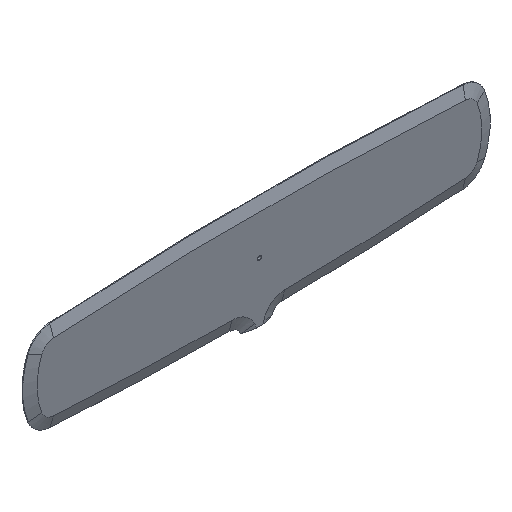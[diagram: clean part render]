
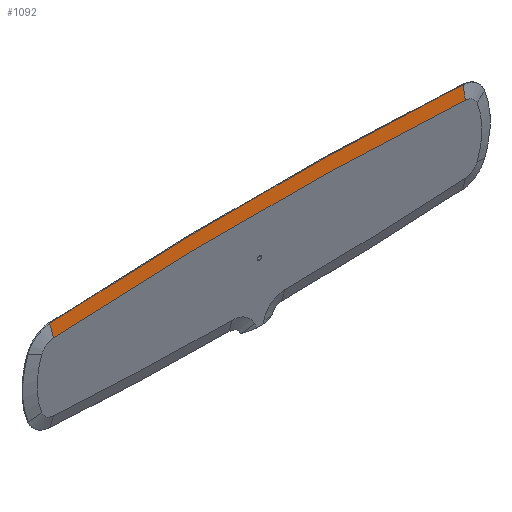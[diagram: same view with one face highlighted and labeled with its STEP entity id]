
A CAD part, isometric view. The second image highlights one B-rep face of the part: STEP entity #1092.
In plain terms, the highlighted free-form (B-spline) face has degree [1, 3] with [2, 14] control points.
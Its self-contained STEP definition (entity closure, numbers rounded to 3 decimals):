
#56 = CARTESIAN_POINT ( 'NONE',  ( -89.546, 0., 104.789 ) ) ;
#61 = CARTESIAN_POINT ( 'NONE',  ( 5.667, 0., 105.144 ) ) ;
#80 = CARTESIAN_POINT ( 'NONE',  ( 447.795, 0., 93.762 ) ) ;
#85 = CARTESIAN_POINT ( 'NONE',  ( -359.555, 8., 127.862 ) ) ;
#104 = CARTESIAN_POINT ( 'NONE',  ( 224.811, 8., 132.144 ) ) ;
#170 = CARTESIAN_POINT ( 'NONE',  ( 447.794, 0., 93.762 ) ) ;
#173 = CARTESIAN_POINT ( 'NONE',  ( 359.42, 8., 129.301 ) ) ;
#177 = EDGE_CURVE ( 'NONE', #418, #715, #540, .T. ) ;
#184 = CARTESIAN_POINT ( 'NONE',  ( -537.231, 0., 88.073 ) ) ;
#214 = CARTESIAN_POINT ( 'NONE',  ( 22.469, 0., 105.116 ) ) ;
#235 = ORIENTED_EDGE ( 'NONE', *, *, #503, .F. ) ;
#242 = CARTESIAN_POINT ( 'NONE',  ( 539.127, 8., 117.869 ) ) ;
#247 = CARTESIAN_POINT ( 'NONE',  ( 537.231, 0., 88.073 ) ) ;
#255 = CARTESIAN_POINT ( 'NONE',  ( 45.032, 8., 135. ) ) ;
#272 = CARTESIAN_POINT ( 'NONE',  ( -538.495, 5.333, 107.937 ) ) ;
#285 = CARTESIAN_POINT ( 'NONE',  ( 78.471, 0., 104.832 ) ) ;
#293 = CARTESIAN_POINT ( 'NONE',  ( -539.127, 8., 117.869 ) ) ;
#316 = CARTESIAN_POINT ( 'NONE',  ( 359.577, 8., 127.861 ) ) ;
#356 = CARTESIAN_POINT ( 'NONE',  ( 539.127, 8., 117.869 ) ) ;
#405 = VERTEX_POINT ( 'NONE', #356 ) ;
#418 = VERTEX_POINT ( 'NONE', #247 ) ;
#431 = CARTESIAN_POINT ( 'NONE',  ( 89.989, 8., 134.642 ) ) ;
#446 = CARTESIAN_POINT ( 'NONE',  ( 224.021, 0., 102.297 ) ) ;
#455 = CARTESIAN_POINT ( 'NONE',  ( 313.57, 0., 100.163 ) ) ;
#456 = EDGE_CURVE ( 'NONE', #715, #672, #518, .T. ) ;
#458 = CARTESIAN_POINT ( 'NONE',  ( 537.231, 0., 88.073 ) ) ;
#461 = B_SPLINE_CURVE_WITH_KNOTS ( 'NONE', 1,
 ( #458, #1302 ),
 .UNSPECIFIED., .F., .F.,
 ( 2, 2 ),
 ( 0., 1. ),
 .UNSPECIFIED. ) ;
#463 = CARTESIAN_POINT ( 'NONE',  ( -537.231, 0., 88.073 ) ) ;
#465 = CARTESIAN_POINT ( 'NONE',  ( -447.795, 0., 93.762 ) ) ;
#479 = EDGE_LOOP ( 'NONE', ( #880, #235, #1369, #1173 ) ) ;
#503 = EDGE_CURVE ( 'NONE', #672, #405, #692, .T. ) ;
#504 = CARTESIAN_POINT ( 'NONE',  ( -358.312, 0., 99.455 ) ) ;
#508 = CARTESIAN_POINT ( 'NONE',  ( -539.127, 8., 117.869 ) ) ;
#518 = B_SPLINE_CURVE_WITH_KNOTS ( 'NONE', 3,
 ( #463, #901, #272, #1016 ),
 .UNSPECIFIED., .F., .F.,
 ( 4, 4 ),
 ( 0., 1. ),
 .UNSPECIFIED. ) ;
#528 = CARTESIAN_POINT ( 'NONE',  ( 156.857, 0., 103.898 ) ) ;
#540 = B_SPLINE_CURVE_WITH_KNOTS ( 'NONE', 3,
 ( #778, #170, #455, #528, #285, #830, #214, #954, #61, #1149, #504, #1342 ),
 .UNSPECIFIED., .F., .F.,
 ( 4, 1, 1, 1, 1, 2, 2, 4 ),
 ( 0., 0.25, 0.375, 0.438, 0.469, 0.484, 0.5, 1. ),
 .UNSPECIFIED. ) ;
#544 = CARTESIAN_POINT ( 'NONE',  ( 539.127, 8., 117.869 ) ) ;
#574 = CARTESIAN_POINT ( 'NONE',  ( -539.127, 8., 117.869 ) ) ;
#594 = CARTESIAN_POINT ( 'NONE',  ( -44.744, 0., 105.144 ) ) ;
#643 = EDGE_CURVE ( 'NONE', #418, #405, #461, .T. ) ;
#647 = CARTESIAN_POINT ( 'NONE',  ( -0.001, 8., 140.699 ) ) ;
#672 = VERTEX_POINT ( 'NONE', #508 ) ;
#692 = B_SPLINE_CURVE_WITH_KNOTS ( 'NONE', 3,
 ( #293, #804, #647, #173, #242 ),
 .UNSPECIFIED., .F., .F.,
 ( 4, 1, 4 ),
 ( 0., 0.5, 1. ),
 .UNSPECIFIED. ) ;
#715 = VERTEX_POINT ( 'NONE', #1032 ) ;
#732 = CARTESIAN_POINT ( 'NONE',  ( 449.375, 8., 123.578 ) ) ;
#778 = CARTESIAN_POINT ( 'NONE',  ( 537.231, 0., 88.073 ) ) ;
#788 = B_SPLINE_SURFACE_WITH_KNOTS ( 'NONE', 1, 3, ( 
 ( #574, #927, #85, #1098, #1290, #1410, #1216, #255, #431, #1269, #104, #316, #732, #544 ),
 ( #184, #465, #924, #1406, #1382, #56, #594, #1264, #819, #1144, #446, #1018, #80, #793 ) ),
 .UNSPECIFIED., .F., .F., .F.,
 ( 2, 2 ),
 ( 4, 2, 2, 2, 2, 2, 4 ),
 ( 0., 1. ),
 ( 0., 0.269, 0.403, 0.538, 0.672, 0.806, 1.075 ),
 .UNSPECIFIED. ) ;
#793 = CARTESIAN_POINT ( 'NONE',  ( 537.231, 0., 88.073 ) ) ;
#804 = CARTESIAN_POINT ( 'NONE',  ( -359.419, 8., 129.301 ) ) ;
#819 = CARTESIAN_POINT ( 'NONE',  ( 89.672, 0., 104.787 ) ) ;
#830 = CARTESIAN_POINT ( 'NONE',  ( 39.27, 0., 105.066 ) ) ;
#880 = ORIENTED_EDGE ( 'NONE', *, *, #643, .T. ) ;
#901 = CARTESIAN_POINT ( 'NONE',  ( -537.863, 2.667, 98.005 ) ) ;
#924 = CARTESIAN_POINT ( 'NONE',  ( -358.291, 0., 98.031 ) ) ;
#927 = CARTESIAN_POINT ( 'NONE',  ( -449.375, 8., 123.578 ) ) ;
#954 = CARTESIAN_POINT ( 'NONE',  ( 11.267, 0., 105.138 ) ) ;
#1016 = CARTESIAN_POINT ( 'NONE',  ( -539.127, 8., 117.869 ) ) ;
#1018 = CARTESIAN_POINT ( 'NONE',  ( 358.312, 0., 98.03 ) ) ;
#1032 = CARTESIAN_POINT ( 'NONE',  ( -537.231, 0., 88.073 ) ) ;
#1092 = ADVANCED_FACE ( 'NONE', ( #1190 ), #788, .T. ) ;
#1098 = CARTESIAN_POINT ( 'NONE',  ( -224.723, 8., 132.146 ) ) ;
#1144 = CARTESIAN_POINT ( 'NONE',  ( 179.246, 0., 103.364 ) ) ;
#1149 = CARTESIAN_POINT ( 'NONE',  ( -179.214, 0., 105.145 ) ) ;
#1173 = ORIENTED_EDGE ( 'NONE', *, *, #177, .F. ) ;
#1190 = FACE_OUTER_BOUND ( 'NONE', #479, .T. ) ;
#1216 = CARTESIAN_POINT ( 'NONE',  ( -44.902, 8., 135. ) ) ;
#1264 = CARTESIAN_POINT ( 'NONE',  ( 44.874, 0., 105.143 ) ) ;
#1269 = CARTESIAN_POINT ( 'NONE',  ( 179.878, 8., 133.215 ) ) ;
#1290 = CARTESIAN_POINT ( 'NONE',  ( -179.773, 8., 133.217 ) ) ;
#1302 = CARTESIAN_POINT ( 'NONE',  ( 539.127, 8., 117.869 ) ) ;
#1342 = CARTESIAN_POINT ( 'NONE',  ( -537.231, 0., 88.073 ) ) ;
#1369 = ORIENTED_EDGE ( 'NONE', *, *, #456, .F. ) ;
#1382 = CARTESIAN_POINT ( 'NONE',  ( -179.141, 0., 103.367 ) ) ;
#1406 = CARTESIAN_POINT ( 'NONE',  ( -223.933, 0., 102.3 ) ) ;
#1410 = CARTESIAN_POINT ( 'NONE',  ( -89.862, 8., 134.644 ) ) ;
